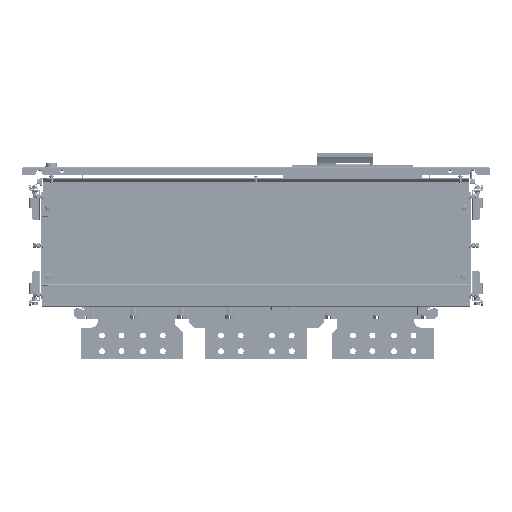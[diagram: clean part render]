
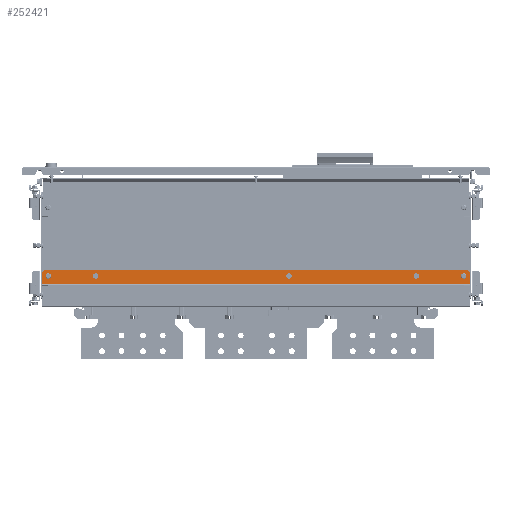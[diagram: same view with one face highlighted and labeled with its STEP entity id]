
A CAD part, front view. The second image highlights one B-rep face of the part: STEP entity #252421.
In plain terms, the highlighted planar face has unit normal (0, -1, 0).
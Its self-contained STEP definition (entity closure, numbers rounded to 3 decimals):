
#251121=CARTESIAN_POINT(' ',(-545.,-5.,-271.3));
#251122=VERTEX_POINT(' ',#251121);
#251286=CARTESIAN_POINT(' ',(-545.,-5.,-240.1));
#251291=DIRECTION(' ',(0.,0.,-1.));
#251296=VECTOR(' ',#251291,1.);
#251301=LINE('',#251286,#251296);
#251306=CARTESIAN_POINT(' ',(-545.,-5.,-240.1));
#251307=VERTEX_POINT(' ',#251306);
#251311=EDGE_CURVE(' ',#251307,#251122,#251301,.T.);
#251751=CARTESIAN_POINT(' ',(545.,-5.,-271.3));
#251752=VERTEX_POINT(' ',#251751);
#251771=CARTESIAN_POINT(' ',(-545.,-5.,-271.3));
#251776=DIRECTION(' ',(1.,0.,0.));
#251781=VECTOR(' ',#251776,1.);
#251786=LINE('',#251771,#251781);
#251791=EDGE_CURVE(' ',#251122,#251752,#251786,.T.);
#251851=DIRECTION(' ',(0.,-1.,0.));
#251856=CARTESIAN_POINT(' ',(-545.,-5.,-271.3));
#251861=DIRECTION(' ',(1.,0.,0.));
#251866=AXIS2_PLACEMENT_3D(' ',#251856,#251851,#251861);
#251871=PLANE('NONE',#251866);
#251876=CARTESIAN_POINT(' ',(-540.,-5.,-235.1));
#251881=DIRECTION(' ',(1.,0.,0.));
#251886=VECTOR(' ',#251881,1.);
#251891=LINE('',#251876,#251886);
#251896=CARTESIAN_POINT(' ',(-540.,-5.,-235.1));
#251897=VERTEX_POINT(' ',#251896);
#251901=CARTESIAN_POINT(' ',(540.,-5.,-235.1));
#251902=VERTEX_POINT(' ',#251901);
#251906=EDGE_CURVE(' ',#251897,#251902,#251891,.T.);
#251911=ORIENTED_EDGE(' ',*,*,#251906,.F.);
#251916=CARTESIAN_POINT(' ',(-540.,-5.,-235.1));
#251921=DIRECTION(' ',(-0.707,0.,-0.707));
#251926=VECTOR(' ',#251921,1.);
#251931=LINE('',#251916,#251926);
#251936=EDGE_CURVE(' ',#251897,#251307,#251931,.T.);
#251941=ORIENTED_EDGE(' ',*,*,#251936,.T.);
#251946=ORIENTED_EDGE(' ',*,*,#251311,.T.);
#251951=ORIENTED_EDGE(' ',*,*,#251791,.T.);
#251956=CARTESIAN_POINT(' ',(545.,-5.,-240.1));
#251961=DIRECTION(' ',(0.,0.,-1.));
#251966=VECTOR(' ',#251961,1.);
#251971=LINE('',#251956,#251966);
#251976=CARTESIAN_POINT(' ',(545.,-5.,-240.1));
#251977=VERTEX_POINT(' ',#251976);
#251981=EDGE_CURVE(' ',#251977,#251752,#251971,.T.);
#251986=ORIENTED_EDGE(' ',*,*,#251981,.F.);
#251991=CARTESIAN_POINT(' ',(545.,-5.,-240.1));
#251996=DIRECTION(' ',(-0.707,0.,0.707));
#252001=VECTOR(' ',#251996,1.);
#252006=LINE('',#251991,#252001);
#252011=EDGE_CURVE(' ',#251977,#251902,#252006,.T.);
#252016=ORIENTED_EDGE(' ',*,*,#252011,.T.);
#252021=EDGE_LOOP(' ',(#251911,#251941,#251946,#251951,#251986,#252016));
#252026=FACE_OUTER_BOUND(' ',#252021,.T.);
#252031=CARTESIAN_POINT(' ',(408.989,-5.,-250.099));
#252036=DIRECTION(' ',(0.,-1.,0.));
#252041=DIRECTION(' ',(0.987,0.,-0.159));
#252046=AXIS2_PLACEMENT_3D(' ',#252031,#252036,#252041);
#252051=CIRCLE('',#252046,7.011);
#252056=CARTESIAN_POINT(' ',(415.91,-5.,-251.217));
#252057=VERTEX_POINT(' ',#252056);
#252061=CARTESIAN_POINT(' ',(416.,-5.,-250.1));
#252062=VERTEX_POINT(' ',#252061);
#252066=EDGE_CURVE(' ',#252057,#252062,#252051,.T.);
#252071=ORIENTED_EDGE(' ',*,*,#252066,.F.);
#252076=CARTESIAN_POINT(' ',(409.,-5.,-250.1));
#252081=DIRECTION(' ',(0.,-1.,0.));
#252086=DIRECTION(' ',(-1.,0.,0.));
#252091=AXIS2_PLACEMENT_3D(' ',#252076,#252081,#252086);
#252096=CIRCLE('',#252091,7.);
#252101=CARTESIAN_POINT(' ',(402.,-5.,-250.1));
#252102=VERTEX_POINT(' ',#252101);
#252106=EDGE_CURVE(' ',#252102,#252057,#252096,.T.);
#252111=ORIENTED_EDGE(' ',*,*,#252106,.F.);
#252116=CARTESIAN_POINT(' ',(409.,-5.,-250.099));
#252121=DIRECTION(' ',(0.,-1.,0.));
#252126=DIRECTION(' ',(1.,0.,0.));
#252131=AXIS2_PLACEMENT_3D(' ',#252116,#252121,#252126);
#252136=CIRCLE('',#252131,7.);
#252141=EDGE_CURVE(' ',#252062,#252102,#252136,.T.);
#252146=ORIENTED_EDGE(' ',*,*,#252141,.F.);
#252151=EDGE_LOOP(' ',(#252071,#252111,#252146));
#252156=FACE_BOUND(' ',#252151,.T.);
#252161=CARTESIAN_POINT(' ',(-408.989,-5.,-250.101));
#252166=DIRECTION(' ',(0.,-1.,0.));
#252171=DIRECTION(' ',(-0.987,0.,0.159));
#252176=AXIS2_PLACEMENT_3D(' ',#252161,#252166,#252171);
#252181=CIRCLE('',#252176,7.011);
#252186=CARTESIAN_POINT(' ',(-415.91,-5.,-248.983));
#252187=VERTEX_POINT(' ',#252186);
#252191=CARTESIAN_POINT(' ',(-416.,-5.,-250.1));
#252192=VERTEX_POINT(' ',#252191);
#252196=EDGE_CURVE(' ',#252187,#252192,#252181,.T.);
#252201=ORIENTED_EDGE(' ',*,*,#252196,.F.);
#252206=CARTESIAN_POINT(' ',(-409.,-5.,-250.1));
#252211=DIRECTION(' ',(0.,-1.,0.));
#252216=DIRECTION(' ',(1.,0.,0.));
#252221=AXIS2_PLACEMENT_3D(' ',#252206,#252211,#252216);
#252226=CIRCLE('',#252221,7.);
#252231=CARTESIAN_POINT(' ',(-402.,-5.,-250.1));
#252232=VERTEX_POINT(' ',#252231);
#252236=EDGE_CURVE(' ',#252232,#252187,#252226,.T.);
#252241=ORIENTED_EDGE(' ',*,*,#252236,.F.);
#252246=CARTESIAN_POINT(' ',(-409.,-5.,-250.101));
#252251=DIRECTION(' ',(0.,-1.,0.));
#252256=DIRECTION(' ',(-1.,0.,0.));
#252261=AXIS2_PLACEMENT_3D(' ',#252246,#252251,#252256);
#252266=CIRCLE('',#252261,7.);
#252271=EDGE_CURVE(' ',#252192,#252232,#252266,.T.);
#252276=ORIENTED_EDGE(' ',*,*,#252271,.F.);
#252281=EDGE_LOOP(' ',(#252201,#252241,#252276));
#252286=FACE_BOUND(' ',#252281,.T.);
#252291=CARTESIAN_POINT(' ',(84.011,-5.,-250.101));
#252296=DIRECTION(' ',(0.,-1.,0.));
#252301=DIRECTION(' ',(-0.987,0.,0.159));
#252306=AXIS2_PLACEMENT_3D(' ',#252291,#252296,#252301);
#252311=CIRCLE('',#252306,7.011);
#252316=CARTESIAN_POINT(' ',(77.09,-5.,-248.983));
#252317=VERTEX_POINT(' ',#252316);
#252321=CARTESIAN_POINT(' ',(77.,-5.,-250.1));
#252322=VERTEX_POINT(' ',#252321);
#252326=EDGE_CURVE(' ',#252317,#252322,#252311,.T.);
#252331=ORIENTED_EDGE(' ',*,*,#252326,.F.);
#252336=CARTESIAN_POINT(' ',(84.,-5.,-250.1));
#252341=DIRECTION(' ',(0.,-1.,0.));
#252346=DIRECTION(' ',(1.,0.,0.));
#252351=AXIS2_PLACEMENT_3D(' ',#252336,#252341,#252346);
#252356=CIRCLE('',#252351,7.);
#252361=CARTESIAN_POINT(' ',(91.,-5.,-250.1));
#252362=VERTEX_POINT(' ',#252361);
#252366=EDGE_CURVE(' ',#252362,#252317,#252356,.T.);
#252371=ORIENTED_EDGE(' ',*,*,#252366,.F.);
#252376=CARTESIAN_POINT(' ',(84.,-5.,-250.101));
#252381=DIRECTION(' ',(0.,-1.,0.));
#252386=DIRECTION(' ',(-1.,0.,0.));
#252391=AXIS2_PLACEMENT_3D(' ',#252376,#252381,#252386);
#252396=CIRCLE('',#252391,7.);
#252401=EDGE_CURVE(' ',#252322,#252362,#252396,.T.);
#252406=ORIENTED_EDGE(' ',*,*,#252401,.F.);
#252411=EDGE_LOOP(' ',(#252331,#252371,#252406));
#252416=FACE_BOUND(' ',#252411,.T.);
#252421=ADVANCED_FACE('NONE',(#252026,#252156,#252286,#252416),#251871,.T.);
